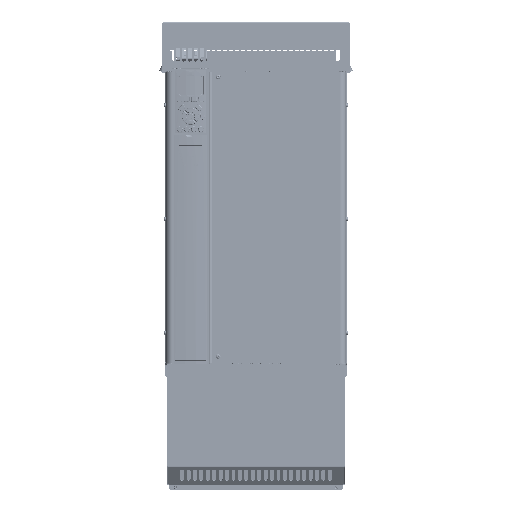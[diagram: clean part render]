
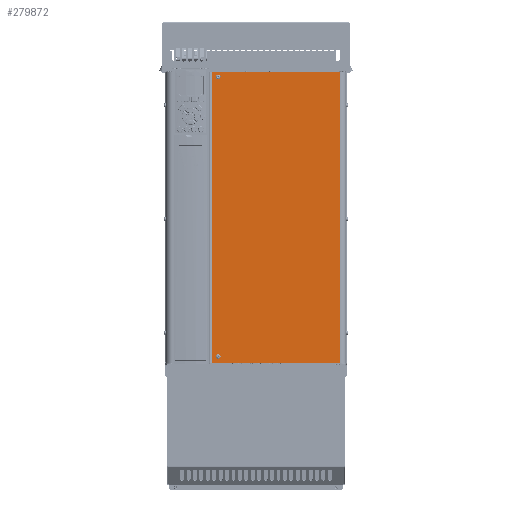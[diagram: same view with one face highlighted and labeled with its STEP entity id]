
A CAD part, top view. The second image highlights one B-rep face of the part: STEP entity #279872.
In plain terms, the highlighted planar face has unit normal (0, 0, 1).
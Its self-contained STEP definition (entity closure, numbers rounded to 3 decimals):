
#5762=DIRECTION('',(1.,0.,0.));
#5763=VECTOR('',#5762,257.671);
#5764=CARTESIAN_POINT('',(-88.56,293.55,325.8));
#5765=LINE('',#5764,#5763);
#66507=DIRECTION('',(1.,0.,0.));
#66508=VECTOR('',#66507,250.452);
#66509=CARTESIAN_POINT('',(-88.56,-295.5,325.8));
#66510=LINE('',#66509,#66508);
#66516=DIRECTION('',(1.,0.,0.));
#66517=VECTOR('',#66516,1.003);
#66518=CARTESIAN_POINT('',(168.108,-295.5,325.8));
#66519=LINE('',#66518,#66517);
#79391=DIRECTION('',(-1.,0.,0.));
#79392=VECTOR('',#79391,4.022);
#79393=CARTESIAN_POINT('',(167.011,-295.45,325.8));
#79394=LINE('',#79393,#79392);
#79395=CARTESIAN_POINT('',(162.989,-295.45,325.8));
#79396=CARTESIAN_POINT('',(162.967,-295.45,325.8));
#79397=CARTESIAN_POINT('',(162.923,-295.45,325.8));
#79398=CARTESIAN_POINT('',(162.856,-295.451,325.8));
#79399=CARTESIAN_POINT('',(162.789,-295.451,325.8));
#79400=CARTESIAN_POINT('',(162.722,-295.452,325.8));
#79401=CARTESIAN_POINT('',(162.655,-295.454,325.8));
#79402=CARTESIAN_POINT('',(162.588,-295.455,325.8));
#79403=CARTESIAN_POINT('',(162.52,-295.458,325.8));
#79404=CARTESIAN_POINT('',(162.452,-295.46,325.8));
#79405=CARTESIAN_POINT('',(162.384,-295.463,325.8));
#79406=CARTESIAN_POINT('',(162.315,-295.467,325.8));
#79407=CARTESIAN_POINT('',(162.246,-295.471,325.8));
#79408=CARTESIAN_POINT('',(162.176,-295.475,325.8));
#79409=CARTESIAN_POINT('',(162.106,-295.481,325.8));
#79410=CARTESIAN_POINT('',(162.035,-295.486,325.8));
#79411=CARTESIAN_POINT('',(161.964,-295.493,325.8));
#79412=CARTESIAN_POINT('',(161.916,-295.498,325.8));
#79413=CARTESIAN_POINT('',(161.892,-295.5,325.8));
#79415=DIRECTION('',(0.,-1.,0.));
#79416=VECTOR('',#79415,589.05);
#79417=CARTESIAN_POINT('',(-88.56,293.55,325.8));
#79418=LINE('',#79417,#79416);
#79419=CARTESIAN_POINT('',(168.108,-295.5,325.8));
#79420=CARTESIAN_POINT('',(168.084,-295.498,325.8));
#79421=CARTESIAN_POINT('',(168.036,-295.493,325.8));
#79422=CARTESIAN_POINT('',(167.965,-295.486,325.8));
#79423=CARTESIAN_POINT('',(167.894,-295.481,325.8));
#79424=CARTESIAN_POINT('',(167.824,-295.475,325.8));
#79425=CARTESIAN_POINT('',(167.754,-295.471,325.8));
#79426=CARTESIAN_POINT('',(167.685,-295.467,325.8));
#79427=CARTESIAN_POINT('',(167.616,-295.463,325.8));
#79428=CARTESIAN_POINT('',(167.548,-295.46,325.8));
#79429=CARTESIAN_POINT('',(167.48,-295.458,325.8));
#79430=CARTESIAN_POINT('',(167.412,-295.455,325.8));
#79431=CARTESIAN_POINT('',(167.345,-295.454,325.8));
#79432=CARTESIAN_POINT('',(167.277,-295.452,325.8));
#79433=CARTESIAN_POINT('',(167.211,-295.451,325.8));
#79434=CARTESIAN_POINT('',(167.144,-295.451,325.8));
#79435=CARTESIAN_POINT('',(167.077,-295.45,325.8));
#79436=CARTESIAN_POINT('',(167.033,-295.45,325.8));
#79437=CARTESIAN_POINT('',(167.011,-295.45,325.8));
#79439=CARTESIAN_POINT('',(-76.5,282.9,325.8));
#79440=DIRECTION('',(0.,0.,-1.));
#79441=DIRECTION('',(-1.,0.,0.));
#79442=AXIS2_PLACEMENT_3D('',#79439,#79440,#79441);
#79444=CARTESIAN_POINT('',(-76.5,282.9,325.8));
#79445=DIRECTION('',(0.,0.,1.));
#79446=DIRECTION('',(-1.,0.,0.));
#79447=AXIS2_PLACEMENT_3D('',#79444,#79445,#79446);
#79449=CARTESIAN_POINT('',(-76.5,282.9,325.8));
#79450=DIRECTION('',(0.,0.,-1.));
#79451=DIRECTION('',(0.265,0.964,0.));
#79452=AXIS2_PLACEMENT_3D('',#79449,#79450,#79451);
#79454=CARTESIAN_POINT('',(-76.5,285.1,325.8));
#79455=DIRECTION('',(0.,0.,1.));
#79456=DIRECTION('',(0.49,0.871,0.));
#79457=AXIS2_PLACEMENT_3D('',#79454,#79455,#79456);
#79459=CARTESIAN_POINT('',(-76.5,-282.9,325.8));
#79460=DIRECTION('',(0.,0.,-1.));
#79461=DIRECTION('',(-1.,0.,0.));
#79462=AXIS2_PLACEMENT_3D('',#79459,#79460,#79461);
#79464=CARTESIAN_POINT('',(-76.5,-282.9,325.8));
#79465=DIRECTION('',(0.,0.,-1.));
#79466=DIRECTION('',(-0.265,-0.964,0.));
#79467=AXIS2_PLACEMENT_3D('',#79464,#79465,#79466);
#79469=CARTESIAN_POINT('',(-76.5,-285.1,325.8));
#79470=DIRECTION('',(0.,0.,1.));
#79471=DIRECTION('',(-0.49,-0.871,0.));
#79472=AXIS2_PLACEMENT_3D('',#79469,#79470,#79471);
#79474=CARTESIAN_POINT('',(-76.5,-282.9,325.8));
#79475=DIRECTION('',(0.,0.,1.));
#79476=DIRECTION('',(0.265,-0.964,0.));
#79477=AXIS2_PLACEMENT_3D('',#79474,#79475,#79476);
#79484=DIRECTION('',(0.,-1.,0.));
#79485=VECTOR('',#79484,589.05);
#79486=CARTESIAN_POINT('',(169.111,293.55,325.8));
#79487=LINE('',#79486,#79485);
#165240=CARTESIAN_POINT('',(169.111,-295.5,325.8));
#165242=VERTEX_POINT('',#165240);
#165256=CARTESIAN_POINT('',(-88.56,-295.5,325.8));
#165257=VERTEX_POINT('',#165256);
#165259=CARTESIAN_POINT('',(169.111,293.55,325.8));
#165261=VERTEX_POINT('',#165259);
#165264=CARTESIAN_POINT('',(-88.56,293.55,325.8));
#165266=VERTEX_POINT('',#165264);
#172423=CARTESIAN_POINT('',(167.011,-295.45,325.8));
#172424=CARTESIAN_POINT('',(162.989,-295.45,325.8));
#172425=VERTEX_POINT('',#172423);
#172426=VERTEX_POINT('',#172424);
#172427=VERTEX_POINT('',#79413);
#172428=VERTEX_POINT('',#79419);
#178284=CARTESIAN_POINT('',(-80.95,282.9,325.8));
#178285=CARTESIAN_POINT('',(-77.677,287.191,325.8));
#178286=VERTEX_POINT('',#178284);
#178287=VERTEX_POINT('',#178285);
#178288=CARTESIAN_POINT('',(-72.05,282.9,325.8));
#178289=VERTEX_POINT('',#178288);
#178306=CARTESIAN_POINT('',(-75.323,287.191,325.8));
#178307=VERTEX_POINT('',#178306);
#178433=CARTESIAN_POINT('',(-80.95,-282.9,325.8));
#178434=CARTESIAN_POINT('',(-72.05,-282.9,325.8));
#178435=VERTEX_POINT('',#178433);
#178436=VERTEX_POINT('',#178434);
#178437=CARTESIAN_POINT('',(-75.323,-287.191,325.8));
#178438=VERTEX_POINT('',#178437);
#178439=CARTESIAN_POINT('',(-77.677,-287.191,325.8));
#178440=VERTEX_POINT('',#178439);
#279833=CARTESIAN_POINT('',(-88.56,295.5,325.8));
#279834=DIRECTION('',(0.,0.,-1.));
#279835=DIRECTION('',(1.,0.,0.));
#279836=AXIS2_PLACEMENT_3D('',#279833,#279834,#279835);
#279837=PLANE('',#279836);
#279839=ORIENTED_EDGE('',*,*,#279838,.T.);
#279841=ORIENTED_EDGE('',*,*,#279840,.T.);
#279842=ORIENTED_EDGE('',*,*,#267932,.F.);
#279843=ORIENTED_EDGE('',*,*,#279826,.F.);
#279844=ORIENTED_EDGE('',*,*,#195088,.T.);
#279846=ORIENTED_EDGE('',*,*,#279845,.T.);
#279847=ORIENTED_EDGE('',*,*,#267936,.F.);
#279849=ORIENTED_EDGE('',*,*,#279848,.T.);
#279850=EDGE_LOOP('',(#279839,#279841,#279842,#279843,#279844,#279846,#279847,
#279849));
#279851=FACE_OUTER_BOUND('',#279850,.F.);
#279853=ORIENTED_EDGE('',*,*,#279852,.F.);
#279855=ORIENTED_EDGE('',*,*,#279854,.T.);
#279857=ORIENTED_EDGE('',*,*,#279856,.F.);
#279859=ORIENTED_EDGE('',*,*,#279858,.T.);
#279860=EDGE_LOOP('',(#279853,#279855,#279857,#279859));
#279861=FACE_BOUND('',#279860,.F.);
#279863=ORIENTED_EDGE('',*,*,#279862,.F.);
#279865=ORIENTED_EDGE('',*,*,#279864,.F.);
#279867=ORIENTED_EDGE('',*,*,#279866,.T.);
#279869=ORIENTED_EDGE('',*,*,#279868,.T.);
#279870=EDGE_LOOP('',(#279863,#279865,#279867,#279869));
#279871=FACE_BOUND('',#279870,.F.);
#279872=ADVANCED_FACE('',(#279851,#279861,#279871),#279837,.F.);
#79414=B_SPLINE_CURVE_WITH_KNOTS('',3,(#79395,#79396,#79397,#79398,#79399,
#79400,#79401,#79402,#79403,#79404,#79405,#79406,#79407,#79408,#79409,#79410,
#79411,#79412,#79413),.UNSPECIFIED.,.F.,.F.,(4,1,1,1,1,1,1,1,1,1,1,1,1,1,1,1,4),
(0.,0.063,0.125,0.188,0.25,0.313,0.375,0.438,0.5,0.563,
0.625,0.688,0.75,0.813,0.875,0.938,1.),.UNSPECIFIED.);
#79438=B_SPLINE_CURVE_WITH_KNOTS('',3,(#79419,#79420,#79421,#79422,#79423,
#79424,#79425,#79426,#79427,#79428,#79429,#79430,#79431,#79432,#79433,#79434,
#79435,#79436,#79437),.UNSPECIFIED.,.F.,.F.,(4,1,1,1,1,1,1,1,1,1,1,1,1,1,1,1,4),
(0.,0.063,0.125,0.188,0.25,0.313,0.375,0.438,0.5,0.563,
0.625,0.688,0.75,0.813,0.875,0.938,1.),.UNSPECIFIED.);
#79443=CIRCLE('',#79442,4.45);
#79448=CIRCLE('',#79447,4.45);
#79453=CIRCLE('',#79452,4.45);
#79458=CIRCLE('',#79457,2.4);
#79463=CIRCLE('',#79462,4.45);
#79468=CIRCLE('',#79467,4.45);
#79473=CIRCLE('',#79472,2.4);
#79478=CIRCLE('',#79477,4.45);
#195088=EDGE_CURVE('',#165266,#165261,#5765,.T.);
#267932=EDGE_CURVE('',#165257,#172427,#66510,.T.);
#267936=EDGE_CURVE('',#172428,#165242,#66519,.T.);
#279826=EDGE_CURVE('',#165266,#165257,#79418,.T.);
#279838=EDGE_CURVE('',#172425,#172426,#79394,.T.);
#279840=EDGE_CURVE('',#172426,#172427,#79414,.T.);
#279845=EDGE_CURVE('',#165261,#165242,#79487,.T.);
#279848=EDGE_CURVE('',#172428,#172425,#79438,.T.);
#279852=EDGE_CURVE('',#178286,#178287,#79443,.T.);
#279854=EDGE_CURVE('',#178286,#178289,#79448,.T.);
#279856=EDGE_CURVE('',#178307,#178289,#79453,.T.);
#279858=EDGE_CURVE('',#178307,#178287,#79458,.T.);
#279862=EDGE_CURVE('',#178435,#178436,#79463,.T.);
#279864=EDGE_CURVE('',#178440,#178435,#79468,.T.);
#279866=EDGE_CURVE('',#178440,#178438,#79473,.T.);
#279868=EDGE_CURVE('',#178438,#178436,#79478,.T.);
